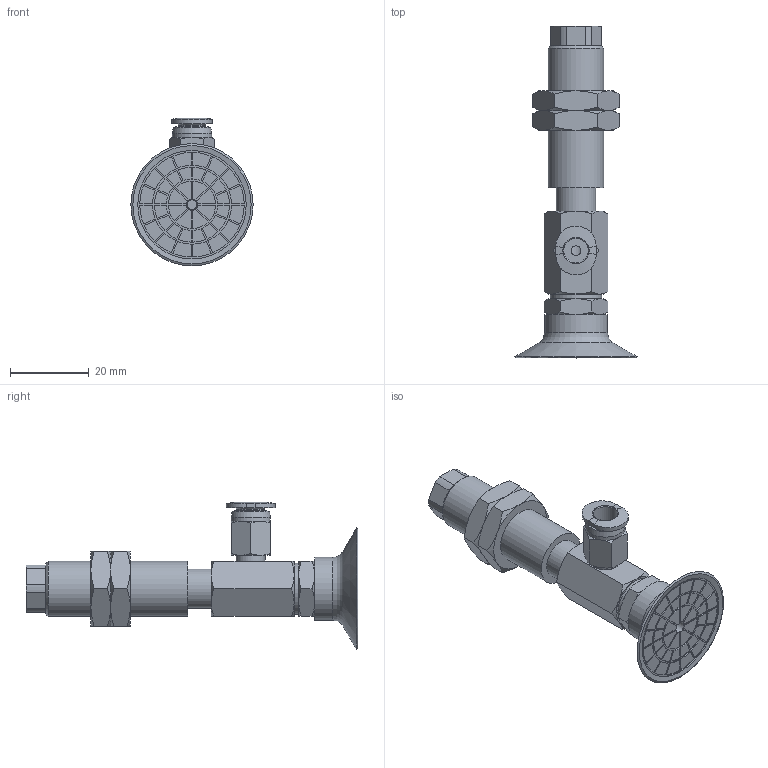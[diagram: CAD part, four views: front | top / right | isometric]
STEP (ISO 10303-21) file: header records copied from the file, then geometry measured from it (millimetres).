
FILE_DESCRIPTION(('STEP AP203'),'1');
FILE_NAME('-O.stp','2025-02-28T06:25:00',(' '),(' '),'Spatial InterOp 3D',' ',' ');
FILE_SCHEMA(('CONFIG_CONTROL_DESIGN'));
Length unit declared in the file: millimetre
Products named in the file (8): BNABPAYS-30B-6-※-O; NAPAYS-30B-6--M; NAPAYS-30B-6--F; Nut-25-S; CONNECTOR-30B-6-PA; TN-PA-30B-M6; BPAG-30B-※_3D; PC-C_06-M5
Assembly tree (8 placements, depth 2):
  BNABPAYS-30B-6-※-O
    NAPAYS-30B-6--M
    NAPAYS-30B-6--F
    Nut-25-S  x2
    CONNECTOR-30B-6-PA
    TN-PA-30B-M6
    BPAG-30B-※_3D
    PC-C_06-M5
Bounding box: 31.04 x 84.2 x 37.5 mm (x, y, z)
Volume: 15334.4 mm3; surface area: 12818.7 mm2
Topology: 7 solids, 10 shells, 415 faces, 945 edges, 600 vertices
Faces by surface type: plane 212, cylinder 107, cone 81, torus 8, bspline 4, revolution 3
Full cylindrical faces by diameter (mm): 2.5 x1, 3 x2, 4 x2, 4.134 x2, 4.917 x1, 5 x2, 6 x3, 7 x1, 7.4 x1, 8.2 x1, 10 x5, 12.917 x2, 13 x1, 14 x1, 16 x1, 27.5 x1
Entity records: 11634 total; most frequent: CARTESIAN_POINT 2591, DIRECTION 1827, ORIENTED_EDGE 1668, EDGE_CURVE 836, AXIS2_PLACEMENT_3D 700, VERTEX_POINT 564, EDGE_LOOP 510, LINE 424
